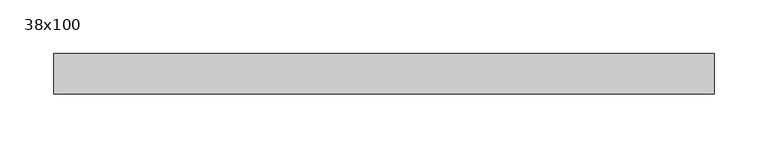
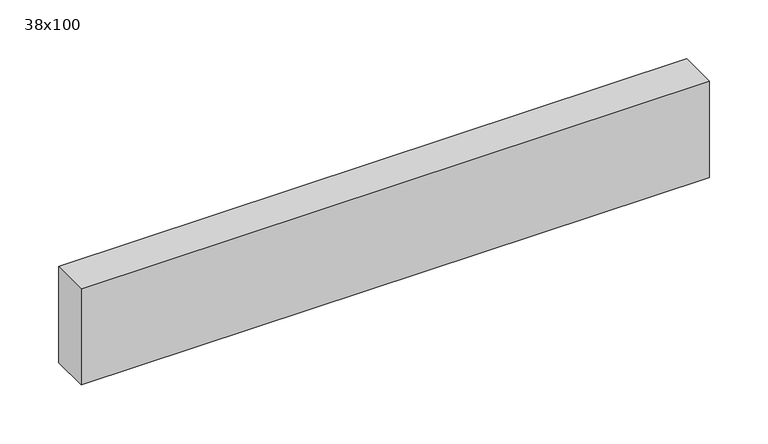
"""IFC4 building model written with IfcOpenShell, lengths in millimetres: beam geometry, Poutre - Bois de construction de dimensions courantes : 38x100."""

import ifcopenshell
import ifcopenshell.guid

model = None  # the IFC model being written
_history = None  # IfcOwnerHistory: only IFC2X3 demands one
_inside = {}  # id of a spatial element -> (the spatial element, [elements in it])
_under = {}  # id of a project, library or spatial element -> (it, [spatial elements below it])
_declared = {}  # id of a project -> (the project, [libraries it declares])
_typed = {}  # id of a type object -> (the type object, [elements of that type])
_made_of = {}  # id of a material, layer set ... -> (it, [elements and type objects made of it])


def new_model(schema):
    """Start an empty IFC model of exactly this schema.

    Asked for "IFC4X3", IfcOpenShell would pick the latest addendum, in which some entities
    have other attributes; the version numbers below select the first issue.
    IFC2X3 requires an IfcOwnerHistory on every rooted entity: one is made here for all.
    """
    global model, _history
    if schema == "IFC4X3":
        model = ifcopenshell.file(schema_version=(4, 3, 0, 0))
    else:
        model = ifcopenshell.file(schema=schema)
    _inside.clear()
    _under.clear()
    _declared.clear()
    _typed.clear()
    _made_of.clear()
    _history = None
    if model.schema == "IFC2X3":
        org = make("IfcOrganization", Name="unknown")
        user = make(
            "IfcPersonAndOrganization",
            ThePerson=make("IfcPerson", FamilyName="unknown"),
            TheOrganization=org,
        )
        app = make(
            "IfcApplication",
            ApplicationDeveloper=org,
            Version="unknown",
            ApplicationFullName="unknown",
            ApplicationIdentifier="unknown",
        )
        _history = make(
            "IfcOwnerHistory",
            OwningUser=user,
            OwningApplication=app,
            ChangeAction="ADDED",
            CreationDate=0,
        )
    return model


def make(cls, **values):
    """One entity of the class cls with the attributes given. An attribute that is None is left unset."""
    return model.create_entity(
        cls, **{name: value for name, value in values.items() if value is not None}
    )


def rooted(cls, **values):
    """An entity with a GlobalId (a new one), such as an element, a storey or a relation."""
    return make(cls, GlobalId=ifcopenshell.guid.new(), OwnerHistory=_history, **values)


def si_unit(unit_type, name, prefix=None):
    """IfcSIUnit, for example si_unit("LENGTHUNIT", "METRE", prefix="MILLI")."""
    return make("IfcSIUnit", UnitType=unit_type, Prefix=prefix, Name=name)


def assignment(units):
    """IfcUnitAssignment: the units of a project."""
    return None if units is None else make("IfcUnitAssignment", Units=units)


def point(xyz):
    """IfcCartesianPoint."""
    return None if xyz is None else make("IfcCartesianPoint", Coordinates=xyz)


def direction(xyz):
    """IfcDirection."""
    return None if xyz is None else make("IfcDirection", DirectionRatios=xyz)


def frame(location, z_axis=None, x_axis=None):
    """IfcAxis2Placement3D, a coordinate frame: its origin and axes. An axis left out is left unset."""
    return make(
        "IfcAxis2Placement3D",
        Location=point(location),
        Axis=direction(z_axis),
        RefDirection=direction(x_axis),
    )


def origin():
    """The frame at (0, 0, 0) with its axes left unset."""
    return frame((0.0, 0.0, 0.0))


def place(relative_to, where):
    """IfcLocalPlacement: puts the frame where relative to a parent placement (None: the world)."""
    return make(
        "IfcLocalPlacement", PlacementRelTo=relative_to, RelativePlacement=where
    )


def context(
    kind, dimensions, precision=None, world=None, true_north=None, identifier=None
):
    """IfcGeometricRepresentationContext, for example the 3D "Model" context."""
    return make(
        "IfcGeometricRepresentationContext",
        ContextIdentifier=identifier,
        ContextType=kind,
        CoordinateSpaceDimension=dimensions,
        Precision=precision,
        WorldCoordinateSystem=world,
        TrueNorth=true_north,
    )


def project(units=None, contexts=None):
    """IfcProject with its units and contexts."""
    return rooted(
        "IfcProject",
        Name="project",
        RepresentationContexts=contexts,
        UnitsInContext=assignment(units),
    )


def spatial(cls, under=None, at=None, **own):
    """A site, building, storey or space (cls), placed at a placement, below another one or the project."""
    s = rooted(cls, ObjectPlacement=at, **own)
    if under is not None:
        _under.setdefault(under.id(), (under, []))[1].append(s)
    return s


def polyline(points):
    """IfcPolyline through the points."""
    return make("IfcPolyline", Points=[point(p) for p in points])


def outline(outer, holes=None, kind="AREA"):
    """IfcArbitraryClosedProfileDef: a profile drawn as a closed curve; with holes, ...WithVoids."""
    if holes is None:
        return make("IfcArbitraryClosedProfileDef", ProfileType=kind, OuterCurve=outer)
    return make(
        "IfcArbitraryProfileDefWithVoids",
        ProfileType=kind,
        OuterCurve=outer,
        InnerCurves=holes,
    )


def extrude(swept, where, along, depth):
    """IfcExtrudedAreaSolid: the profile swept, set in the frame where, extruded along a direction by depth."""
    return make(
        "IfcExtrudedAreaSolid",
        SweptArea=swept,
        Position=where,
        ExtrudedDirection=direction(along),
        Depth=depth,
    )


def shape(context_of_items, identifier, shape_type, items):
    """IfcShapeRepresentation: the items that make up one representation, for example the "Body"."""
    return make(
        "IfcShapeRepresentation",
        ContextOfItems=context_of_items,
        RepresentationIdentifier=identifier,
        RepresentationType=shape_type,
        Items=items,
    )


def source(mapping_origin, context_of_items, identifier, shape_type, items):
    """IfcRepresentationMap: a shape defined once, which mapped items show again and again."""
    return make(
        "IfcRepresentationMap",
        MappingOrigin=mapping_origin,
        MappedRepresentation=shape(context_of_items, identifier, shape_type, items),
    )


def transform(
    local_origin,
    x_axis=None,
    y_axis=None,
    z_axis=None,
    scale=None,
    scale2=None,
    scale3=None,
    uniform=True,
):
    """IfcCartesianTransformationOperator3D, or its non-uniform kind. x_axis, y_axis, z_axis: its Axis1, 2, 3."""
    if uniform:
        return make(
            "IfcCartesianTransformationOperator3D",
            Axis1=direction(x_axis),
            Axis2=direction(y_axis),
            LocalOrigin=point(local_origin),
            Scale=scale,
            Axis3=direction(z_axis),
        )
    return make(
        "IfcCartesianTransformationOperator3DnonUniform",
        Axis1=direction(x_axis),
        Axis2=direction(y_axis),
        LocalOrigin=point(local_origin),
        Scale=scale,
        Axis3=direction(z_axis),
        Scale2=scale2,
        Scale3=scale3,
    )


def mapped(mapping_source, mapping_target):
    """IfcMappedItem: shows the shape of a source again, moved by a transform."""
    return make(
        "IfcMappedItem", MappingSource=mapping_source, MappingTarget=mapping_target
    )


def made_of(thing, what):
    """Note that an element or type object is made of a material, layer set ...; save() writes the relation."""
    if what is not None:
        _made_of.setdefault(what.id(), (what, []))[1].append(thing)
    return thing


def element(
    cls,
    number,
    at=None,
    inside=None,
    cuts=None,
    type_object=None,
    material=None,
    context=None,
    identifier="Body",
    shape_type=None,
    held_by="IfcProductDefinitionShape",
    body=None,
    shapes=None,
    **own,
):
    """One element of the class cls, such as IfcWall. Its Tag is "e" and its number.

    at: its placement. inside: the storey or other place that contains it. cuts: it is an
    opening in that element (IfcRelVoidsElement). A single representation is given by context,
    identifier, shape_type and body (its items); several are given by shapes. held_by: the class
    of the entity that holds the representations. save() writes the other relations.
    """
    e = rooted(cls, Tag="e%d" % number, ObjectPlacement=at, **own)
    if body is not None:
        shapes = [shape(context, identifier, shape_type, body)]
    if shapes is not None:
        e.Representation = make(held_by, Representations=shapes)
    if inside is not None:
        _inside.setdefault(inside.id(), (inside, []))[1].append(e)
    if cuts is not None:
        rooted(
            "IfcRelVoidsElement", RelatingBuildingElement=cuts, RelatedOpeningElement=e
        )
    if type_object is not None:
        _typed.setdefault(type_object.id(), (type_object, []))[1].append(e)
    return made_of(e, material)


def aggregate(whole, parts):
    """IfcRelAggregates: a whole, such as a stair, and the parts it consists of."""
    return rooted("IfcRelAggregates", RelatingObject=whole, RelatedObjects=parts)


def save(model, path):
    """Write the relations noted so far, then the file.

    IfcRelAggregates (storeys below a building ...), IfcRelContainedInSpatialStructure (elements
    in a storey), IfcRelDefinesByType, IfcRelAssociatesMaterial and IfcRelDeclares: one each for
    every whole, place, type object, material and project.
    """
    for whole, parts in _under.values():
        aggregate(whole, parts)
    for where, things in _inside.values():
        rooted(
            "IfcRelContainedInSpatialStructure",
            RelatedElements=things,
            RelatingStructure=where,
        )
    for kind, things in _typed.values():
        rooted("IfcRelDefinesByType", RelatedObjects=things, RelatingType=kind)
    for what, things in _made_of.values():
        rooted("IfcRelAssociatesMaterial", RelatedObjects=things, RelatingMaterial=what)
    for by, libraries in _declared.values():
        rooted("IfcRelDeclares", RelatingContext=by, RelatedDefinitions=libraries)
    model.write(path)


def beam_38x100_0cfcc222(model_context):
    return source(origin(), model_context, "Body", "SweptSolid", [
        extrude(outline(polyline([(308.0, 19.05), (308.0, -19.05), (-308.0, -19.05), (-308.0, 19.05), (308.0, 19.05)])), frame((0.0, 0.0, -50.0), z_axis=(0.0, 0.0, 1.0), x_axis=(1.0, 0.0, 0.0)), (0.0, 0.0, 1.0), 100.0),
    ])


if __name__ == "__main__":
    model = new_model("IFC4")
    model_context = context("Model", 3, world=origin())
    ifc_project = project(units=[si_unit("LENGTHUNIT", "METRE", prefix="MILLI")], contexts=[model_context])
    site = spatial("IfcSite", under=ifc_project)
    building = spatial("IfcBuilding", under=site)
    placement = place(None, origin())
    beam_38x100_shape = beam_38x100_0cfcc222(model_context)
    element("IfcBeam", 1, ObjectType="Poutre - Bois de construction de dimensions courantes : 38x100", at=placement, inside=building, context=model_context, shape_type="MappedRepresentation", body=[
        mapped(beam_38x100_shape, transform((0.0, 0.0, 0.0), x_axis=(1.0, 0.0, 0.0), y_axis=(0.0, 1.0, 0.0), z_axis=(0.0, 0.0, 1.0))),
    ])
    save(model, "model.ifc")
